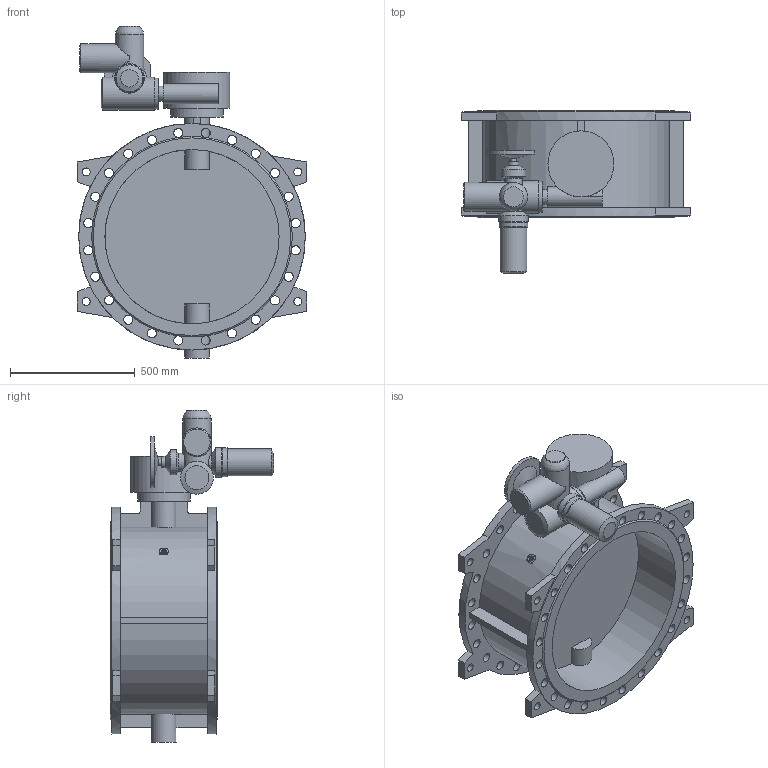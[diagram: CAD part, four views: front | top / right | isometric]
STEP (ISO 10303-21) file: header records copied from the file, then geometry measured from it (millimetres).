
FILE_DESCRIPTION(('STEP AP203'), '1');
FILE_NAME('Çàòâîð 023F.Z DN700 PN16 + ðåäóêòîð + ÌÒ903.À10', '', ('UNSPECIFIED'), ('UNSPECIFIED'), 'ASCON STEP Converter 1.6', 'ASCON Math Kernel', '');
FILE_SCHEMA(('CONFIG_CONTROL_DESIGN'));
Length unit declared in the file: millimetre
Bounding box: 920 x 655.5 x 1333 mm (x, y, z)
Volume: 85194118.4 mm3; surface area: 4782736.9 mm2
Topology: 1 solids, 1 shells, 236 faces, 729 edges, 480 vertices
Faces by surface type: cylinder 115, plane 109, cone 11, torus 1
Full cylindrical faces by diameter (mm): 8.5 x4, 12 x4, 18.5 x4, 23 x4, 24 x1, 32 x8, 37 x48, 42 x1, 60 x1, 66 x1, 72 x1, 80 x2, 100 x2, 108 x1, 114 x1, 115 x1, 116 x1, 119 x1, 125 x1, 132 x1, 210 x1, 265 x1, 700 x2, 910 x2
Entity records: 13623 total; most frequent: CARTESIAN_POINT 5272, DIRECTION 1352, ORIENTED_EDGE 1238, EDGE_CURVE 619, AXIS2_PLACEMENT_3D 579, VERTEX_POINT 479, EDGE_LOOP 442, CIRCLE 343
